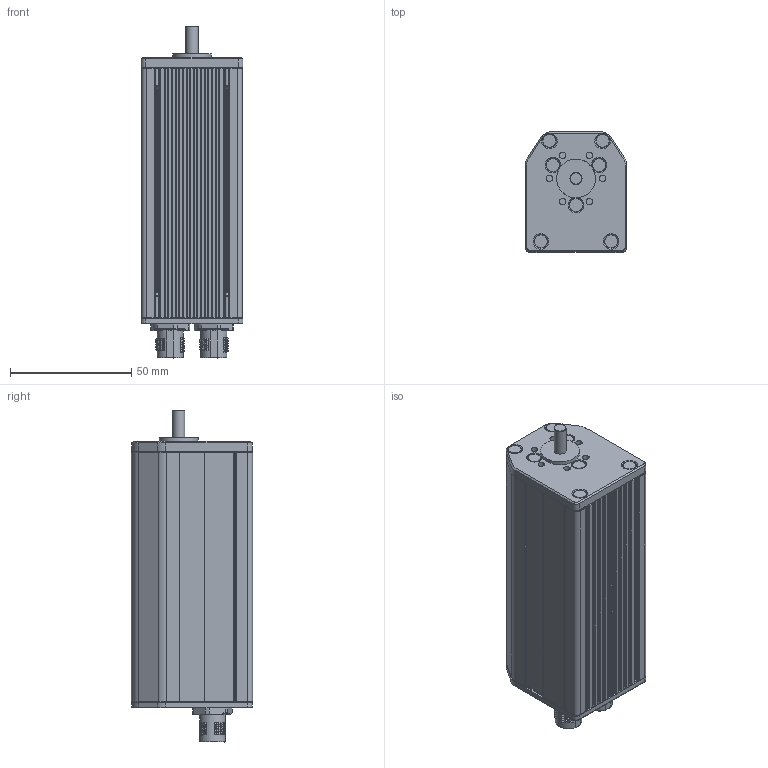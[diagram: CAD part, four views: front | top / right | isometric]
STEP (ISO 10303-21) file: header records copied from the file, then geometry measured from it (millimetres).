
FILE_DESCRIPTION(/* description */ (''),/* implementation_level */ '2;1');
FILE_NAME(/* name */ 'MCS_RSCO_axial_L110_2.stp',/* time_stamp */ '2017-04-18T08:16:57+02:00',/* author */ ('DR. FRITZ FAULHABER GmbH & Co. KG'),/* organization */ ('DR. FRITZ FAULHABER GmbH & Co. KG'),/* preprocessor_version */ 'ST-DEVELOPER v16',/* originating_system */ 'SIEMENS PLM Software NX 10.0',/* authorisation */ '');
FILE_SCHEMA (('AUTOMOTIVE_DESIGN { 1 0 10303 214 3 1 1 1 }'));
Products named in the file (1): H00001065_C
Bounding box: 42 x 50 x 137.1 mm (x, y, z)
Volume: 211319.9 mm3; surface area: 32570.2 mm2
Topology: 1 solids, 5 shells, 1232 faces, 3165 edges, 1971 vertices
Faces by surface type: plane 496, cylinder 406, bspline 178, torus 72, cone 36, sphere 32, extrusion 12
Full cylindrical faces by diameter (mm): 1.5 x1, 2.7 x6, 2.9 x2, 3.3 x2, 3.4 x2, 5 x1, 5.5 x11, 6.1 x2, 8.3 x2, 16 x1
Entity records: 51926 total; most frequent: CARTESIAN_POINT 24021, ORIENTED_EDGE 6086, DIRECTION 5338, EDGE_CURVE 3043, AXIS2_PLACEMENT_3D 1941, VERTEX_POINT 1934, VECTOR 1456, LINE 1444
